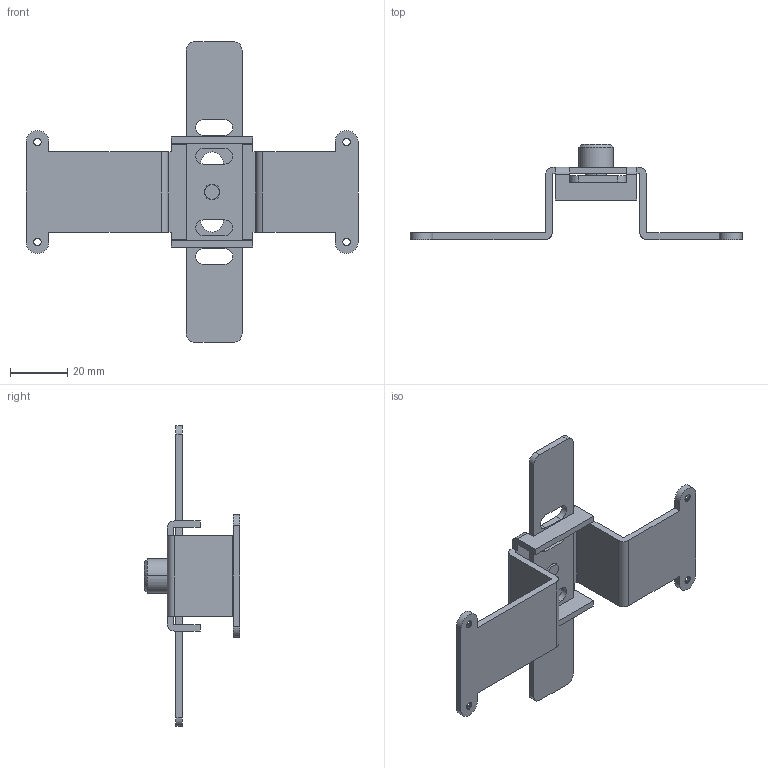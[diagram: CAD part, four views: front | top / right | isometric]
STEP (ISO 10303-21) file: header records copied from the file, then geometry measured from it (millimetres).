
FILE_DESCRIPTION(/* description */ (''),/* implementation_level */ '2;1');
FILE_NAME(/* name */ 'MIF10GM_3P_3D DATA.stp',/* time_stamp */ '2017-12-29T16:25:57+09:00',/* author */ (''),/* organization */ (''),/* preprocessor_version */ 'ST-DEVELOPER v15',/* originating_system */ 'SIEMENS PLM Software NX 9.0',/* authorisation */ '');
FILE_SCHEMA (('AP203_CONFIGURATION_CONTROLLED_3D_DESIGN_OF_MECHANICAL_PARTS_AND_ASSEMBLIES_MIM_LF { 1 0 10303 403 2 1 2}'));
Length unit declared in the file: millimetre
Products named in the file (5): GC1-PG-8015_R00; GC1-OT-8035_R00; 4ME-08569-1_R00; GC1-PG-8014_R00; GC1-AS-8059_R00
Assembly tree (4 placements, depth 2):
  GC1-AS-8059_R00
    GC1-PG-8014_R00
    4ME-08569-1_R00
    GC1-OT-8035_R00
    GC1-PG-8015_R00
Bounding box: 116 x 33.3 x 105 mm (x, y, z)
Volume: 16644.9 mm3; surface area: 17394.7 mm2
Topology: 4 solids, 4 shells, 132 faces, 364 edges, 238 vertices
Faces by surface type: plane 64, cylinder 58, cone 10
Full cylindrical faces by diameter (mm): 5.5 x4
Entity records: 4782 total; most frequent: DIRECTION 756, CARTESIAN_POINT 735, ORIENTED_EDGE 720, EDGE_CURVE 360, AXIS2_PLACEMENT_3D 259, VERTEX_POINT 238, LINE 238, VECTOR 238
